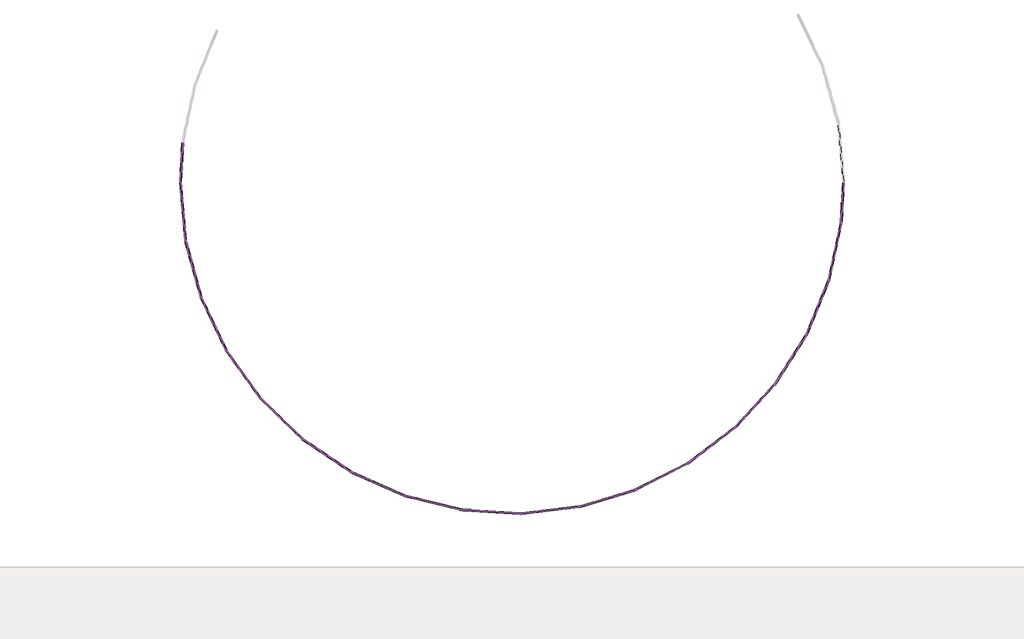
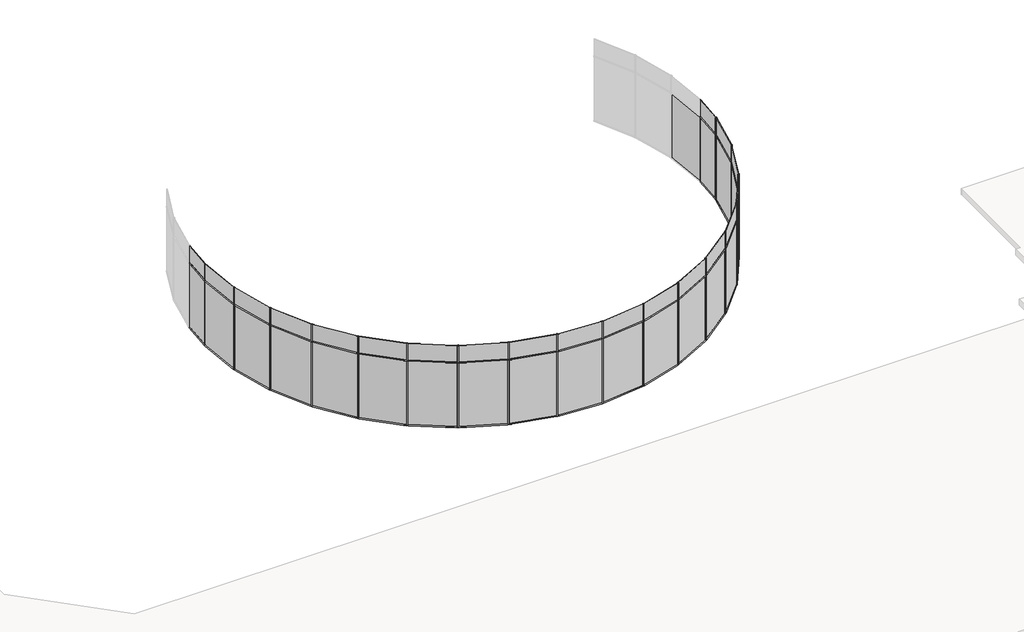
# One storey, part 1 of 2: 72 members, 39 plates.
"""IFC4 building model written with IfcOpenShell, lengths in millimetres."""

from ifc_helpers import new_model, si_unit, origin, place, context, project, spatial, transform, mapped, element, save
from components import member_37831322, member_0f460398, member_8bce7277, member_e3690c8c, member_018dfd5b, plate_ebbde56a, plate_f02ba564, plate_a57f398c, plate_84913797, plate_79c12487, plate_6c13b2b5

model = new_model("IFC4")

# Units and contexts
model_context = context("Model", 3, world=origin())
ifc_project = project(units=[si_unit("LENGTHUNIT", "METRE", prefix="MILLI")], contexts=[model_context])

# Site, building, storey
site = spatial("IfcSite", under=ifc_project)
building = spatial("IfcBuilding", under=site)
storey = spatial("IfcBuildingStorey", under=building, Name="樓層 2", Elevation=4500.0)

# Members
placement = place(None, origin())
member_shape = member_37831322(model_context)
element("IfcMember", 1, ObjectType="圓形豎框 : 25mm 半徑", at=placement, inside=storey, context=model_context, shape_type="MappedRepresentation", body=[
    mapped(member_shape, transform((-21690.7402424, -18858.604828, 5600.0), x_axis=(0.17664179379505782, -0.9842752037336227, 0.0), y_axis=(-0.9842752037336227, -0.17664179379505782, 0.0), z_axis=(0.0, 0.0, -1.0))),
])
element("IfcMember", 2, ObjectType="圓形豎框 : 25mm 半徑", at=placement, inside=storey, context=model_context, shape_type="MappedRepresentation", body=[
    mapped(member_shape, transform((-21216.9409052, -20595.1284207, 5600.0), x_axis=(0.3477282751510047, -0.9375953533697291, 0.0), y_axis=(-0.9375953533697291, -0.3477282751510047, 0.0), z_axis=(0.0, 0.0, -1.0))),
])
element("IfcMember", 3, ObjectType="圓形豎框 : 25mm 半徑", at=placement, inside=storey, context=model_context, shape_type="MappedRepresentation", body=[
    mapped(member_shape, transform((-20443.8493238, -22220.6527689, 5600.0), x_axis=(0.5078788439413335, -0.8614285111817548, 0.0), y_axis=(-0.8614285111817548, -0.5078788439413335, 0.0), z_axis=(0.0, 0.0, -1.0))),
])
element("IfcMember", 4, ObjectType="圓形豎框 : 25mm 半徑", at=placement, inside=storey, context=model_context, shape_type="MappedRepresentation", body=[
    mapped(member_shape, transform((-19395.7789131, -23684.0557942, 5600.0), x_axis=(0.6520568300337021, -0.7581700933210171, 0.0), y_axis=(-0.7581700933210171, -0.6520568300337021, 0.0), z_axis=(0.0, 0.0, -1.0))),
])
element("IfcMember", 5, ObjectType="圓形豎框 : 25mm 半徑", at=placement, inside=storey, context=model_context, shape_type="MappedRepresentation", body=[
    mapped(member_shape, transform((-18105.6910608, -24939.3140677, 5600.0), x_axis=(0.7757278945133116, -0.6310675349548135, 0.0), y_axis=(-0.6310675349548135, -0.7757278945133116, 0.0), z_axis=(0.0, 0.0, -1.0))),
])
element("IfcMember", 6, ObjectType="圓形豎框 : 25mm 半徑", at=placement, inside=storey, context=model_context, shape_type="MappedRepresentation", body=[
    mapped(member_shape, transform((-16614.158504, -25946.9502282, 5600.0), x_axis=(0.8750026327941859, -0.48411815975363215, 0.0), y_axis=(-0.48411815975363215, -0.8750026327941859, 0.0), z_axis=(0.0, 0.0, -1.0))),
])
element("IfcMember", 7, ObjectType="圓形豎框 : 25mm 半徑", at=placement, inside=storey, context=model_context, shape_type="MappedRepresentation", body=[
    mapped(member_shape, transform((-14968.0893339, -26675.2745291, 5600.0), x_axis=(0.9467588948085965, -0.32194346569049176, 0.0), y_axis=(-0.32194346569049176, -0.9467588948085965, 0.0), z_axis=(0.0, 0.0, -1.0))),
])
element("IfcMember", 8, ObjectType="圓形豎框 : 25mm 半徑", at=placement, inside=storey, context=model_context, shape_type="MappedRepresentation", body=[
    mapped(member_shape, transform((-13219.2517551, -27101.3814677, 5600.0), x_axis=(0.9887399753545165, -0.14964378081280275, 0.0), y_axis=(-0.14964378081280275, -0.9887399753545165, 0.0), z_axis=(0.0, 0.0, -1.0))),
])
element("IfcMember", 9, ObjectType="圓形豎框 : 25mm 半徑", at=placement, inside=storey, context=model_context, shape_type="MappedRepresentation", body=[
    mapped(member_shape, transform((-11422.645997, -27211.8701546, 5600.0), x_axis=(0.9996255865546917, 0.027362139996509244, 0.0), y_axis=(0.027362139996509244, -0.9996255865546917, 0.0), z_axis=(0.0, 0.0, -1.0))),
])
element("IfcMember", 10, ObjectType="圓形豎框 : 25mm 半徑", at=placement, inside=storey, context=model_context, shape_type="MappedRepresentation", body=[
    mapped(member_shape, transform((-9634.7745786, -27003.2657656, 5600.0), x_axis=(0.9790733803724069, 0.2035075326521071, 0.0), y_axis=(0.2035075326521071, -0.9790733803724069, 0.0), z_axis=(0.0, 0.0, -1.0))),
])
element("IfcMember", 11, ObjectType="圓形豎框 : 25mm 半徑", at=placement, inside=storey, context=model_context, shape_type="MappedRepresentation", body=[
    mapped(member_shape, transform((-7911.8653274, -26482.1288236, 5600.0), x_axis=(0.9277297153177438, 0.37325269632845, 0.0), y_axis=(0.37325269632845, -0.9277297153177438, 0.0), z_axis=(0.0, 0.0, -1.0))),
])
element("IfcMember", 12, ObjectType="圓形豎框 : 25mm 半徑", at=placement, inside=storey, context=model_context, shape_type="MappedRepresentation", body=[
    mapped(member_shape, transform((-6308.1030374, -25664.8488732, 5600.0), x_axis=(0.8472093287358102, 0.5312592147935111, 0.0), y_axis=(0.5312592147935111, -0.8472093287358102, 0.0), z_axis=(0.0, 0.0, -1.0))),
])
element("IfcMember", 13, ObjectType="圓形豎框 : 25mm 半徑", at=placement, inside=storey, context=model_context, shape_type="MappedRepresentation", body=[
    mapped(member_shape, transform((-4873.9253792, -24577.1290358, 5600.0), x_axis=(0.7400445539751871, 0.672557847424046, 0.0), y_axis=(0.672557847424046, -0.7400445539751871, 0.0), z_axis=(0.0, 0.0, -1.0))),
])
element("IfcMember", 14, ObjectType="圓形豎框 : 25mm 半徑", at=placement, inside=storey, context=model_context, shape_type="MappedRepresentation", body=[
    mapped(member_shape, transform((-3654.4366557, -23253.1776571, 5600.0), x_axis=(0.6096056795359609, 0.7927048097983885, 0.0), y_axis=(0.7927048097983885, -0.6096056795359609, 0.0), z_axis=(0.0, 0.0, -1.0))),
])
element("IfcMember", 15, ObjectType="圓形豎框 : 25mm 半徑", at=placement, inside=storey, context=model_context, shape_type="MappedRepresentation", body=[
    mapped(member_shape, transform((-2687.9892904, -21734.6324684, 5600.0), x_axis=(0.4599949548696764, 0.8879215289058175, 0.0), y_axis=(0.8879215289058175, -0.4599949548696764, 0.0), z_axis=(0.0, 0.0, -1.0))),
])
element("IfcMember", 16, ObjectType="圓形豎框 : 25mm 半徑", at=placement, inside=storey, context=model_context, shape_type="MappedRepresentation", body=[
    mapped(member_shape, transform((-2004.977659, -20069.2510972, 5600.0), x_axis=(0.2959175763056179, 0.9552134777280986, 0.0), y_axis=(0.9552134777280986, -0.2959175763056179, 0.0), z_axis=(0.0, 0.0, -1.0))),
])
element("IfcMember", 17, ObjectType="圓形豎框 : 25mm 半徑", at=placement, inside=storey, context=model_context, shape_type="MappedRepresentation", body=[
    mapped(member_shape, transform((-1626.8821992, -18309.4091091, 5600.0), x_axis=(0.12253371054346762, 0.9924643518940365, 0.0), y_axis=(0.9924643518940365, -0.12253371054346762, 0.0), z_axis=(0.0, 0.0, -1.0))),
])
member_2_shape = member_0f460398(model_context)
element("IfcMember", 18, ObjectType="圓形豎框 : 25mm 半徑", at=placement, inside=storey, context=model_context, shape_type="MappedRepresentation", body=[
    mapped(member_2_shape, transform((-21223.5214516, -20571.0100375, 5600.0), x_axis=(0.0, 0.0, 1.0), y_axis=(-0.9647353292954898, -0.2632218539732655, 0.0), z_axis=(0.2632218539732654, -0.9647353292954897, 0.0))),
])
element("IfcMember", 19, ObjectType="圓形豎框 : 25mm 半徑", at=placement, inside=storey, context=model_context, shape_type="MappedRepresentation", body=[
    mapped(member_2_shape, transform((-20454.5867068, -22198.0760419, 5600.0), x_axis=(0.0, 0.0, 1.0), y_axis=(-0.9030690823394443, -0.4294953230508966, 0.0), z_axis=(0.4294953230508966, -0.9030690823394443, 0.0))),
])
element("IfcMember", 20, ObjectType="圓形豎框 : 25mm 半徑", at=placement, inside=storey, context=model_context, shape_type="MappedRepresentation", body=[
    mapped(member_2_shape, transform((-19410.3354466, -23663.7307522, 5600.0), x_axis=(0.0, 0.0, 1.0), y_axis=(-0.8130016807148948, -0.5822613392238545, 0.0), z_axis=(0.5822613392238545, -0.8130016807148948, 0.0))),
])
element("IfcMember", 21, ObjectType="圓形豎框 : 25mm 半徑", at=placement, inside=storey, context=model_context, shape_type="MappedRepresentation", body=[
    mapped(member_2_shape, transform((-18123.6089476, -24921.8799251, 5600.0), x_axis=(0.0, 0.0, 1.0), y_axis=(-0.6973657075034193, -0.7167154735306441, 0.0), z_axis=(0.716715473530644, -0.6973657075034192, 0.0))),
])
element("IfcMember", 22, ObjectType="圓形豎框 : 25mm 半徑", at=placement, inside=storey, context=model_context, shape_type="MappedRepresentation", body=[
    mapped(member_2_shape, transform((-16634.8742339, -25932.9552816, 5600.0), x_axis=(0.0, 0.0, 1.0), y_axis=(-0.559797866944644, -0.8286291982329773, 0.0), z_axis=(0.8286291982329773, -0.559797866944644, 0.0))),
])
element("IfcMember", 23, ObjectType="圓形豎框 : 25mm 半徑", at=placement, inside=storey, context=model_context, shape_type="MappedRepresentation", body=[
    mapped(member_2_shape, transform((-14990.9514057, -26665.1589138, 5600.0), x_axis=(0.0, 0.0, 1.0), y_axis=(-0.4046246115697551, -0.9144828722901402, 0.0), z_axis=(0.9144828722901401, -0.40462461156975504, 0.0))),
])
element("IfcMember", 24, ObjectType="圓形豎框 : 25mm 半徑", at=placement, inside=storey, context=model_context, shape_type="MappedRepresentation", body=[
    mapped(member_2_shape, transform((-13243.5411659, -27095.4633158, 5600.0), x_axis=(0.0, 0.0, 1.0), y_axis=(-0.23672607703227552, -0.9715764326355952, 0.0), z_axis=(0.9715764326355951, -0.2367260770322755, 0.0))),
])
element("IfcMember", 25, ObjectType="圓形豎框 : 25mm 半徑", at=placement, inside=storey, context=model_context, shape_type="MappedRepresentation", body=[
    mapped(member_2_shape, transform((-11447.5988548, -27210.3355895, 5600.0), x_axis=(0.0, 0.0, 1.0), y_axis=(-0.06138260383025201, -0.9981143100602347, 0.0), z_axis=(0.9981143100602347, -0.06138260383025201, 0.0))),
])
element("IfcMember", 26, ObjectType="圓形豎框 : 25mm 半徑", at=placement, inside=storey, context=model_context, shape_type="MappedRepresentation", body=[
    mapped(member_2_shape, transform((-9659.606126, -27006.1630487, 5600.0), x_axis=(0.0, 0.0, 1.0), y_axis=(0.1158913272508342, -0.9932618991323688, 0.0), z_axis=(0.9932618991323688, 0.1158913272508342, 0.0))),
])
element("IfcMember", 27, ObjectType="圓形豎框 : 25mm 半徑", at=placement, inside=storey, context=model_context, shape_type="MappedRepresentation", body=[
    mapped(member_2_shape, transform((-7935.7946226, -26489.3668367, 5600.0), x_axis=(0.0, 0.0, 1.0), y_axis=(0.2895205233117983, -0.9571718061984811, 0.0), z_axis=(0.9571718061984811, 0.2895205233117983, 0.0))),
])
element("IfcMember", 28, ObjectType="圓形豎框 : 25mm 半徑", at=placement, inside=storey, context=model_context, shape_type="MappedRepresentation", body=[
    mapped(member_2_shape, transform((-6330.3775137, -25676.1999836, 5600.0), x_axis=(0.0, 0.0, 1.0), y_axis=(0.45404441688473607, -0.8909790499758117, 0.0), z_axis=(0.8909790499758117, 0.45404441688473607, 0.0))),
])
element("IfcMember", 29, ObjectType="圓形豎框 : 25mm 半徑", at=placement, inside=storey, context=model_context, shape_type="MappedRepresentation", body=[
    mapped(member_2_shape, transform((-4893.8445134, -24592.2362558, 5600.0), x_axis=(0.0, 0.0, 1.0), y_axis=(0.6042887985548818, -0.7967653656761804, 0.0), z_axis=(0.7967653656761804, 0.6042887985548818, 0.0))),
])
element("IfcMember", 30, ObjectType="圓形豎框 : 25mm 半徑", at=placement, inside=storey, context=model_context, shape_type="MappedRepresentation", body=[
    mapped(member_2_shape, transform((-3671.3739991, -23271.5658707, 5600.0), x_axis=(0.0, 0.0, 1.0), y_axis=(0.7355285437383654, -0.677493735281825, 0.0), z_axis=(0.677493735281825, 0.7355285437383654, 0.0))),
])
element("IfcMember", 31, ObjectType="圓形豎框 : 25mm 半徑", at=placement, inside=storey, context=model_context, shape_type="MappedRepresentation", body=[
    mapped(member_2_shape, transform((-2701.4121705, -21755.7233738, 5600.0), x_axis=(0.0, 0.0, 1.0), y_axis=(0.8436362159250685, -0.5369152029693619, 0.0), z_axis=(0.5369152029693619, 0.8436362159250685, 0.0))),
])
element("IfcMember", 32, ObjectType="圓形豎框 : 25mm 半徑", at=placement, inside=storey, context=model_context, shape_type="MappedRepresentation", body=[
    mapped(member_2_shape, transform((-2014.4639317, -20092.3813941, 5600.0), x_axis=(0.0, 0.0, 1.0), y_axis=(0.9252118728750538, -0.379450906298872, 0.0), z_axis=(0.37945090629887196, 0.9252118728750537, 0.0))),
])
element("IfcMember", 33, ObjectType="圓形豎框 : 25mm 半徑", at=placement, inside=storey, context=model_context, shape_type="MappedRepresentation", body=[
    mapped(member_2_shape, transform((-1632.133525, -18333.8513589, 5600.0), x_axis=(0.0, 0.0, 1.0), y_axis=(0.9776899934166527, -0.2100530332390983, 0.0), z_axis=(0.2100530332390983, 0.9776899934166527, 0.0))),
])
element("IfcMember", 34, ObjectType="圓形豎框 : 25mm 半徑", at=placement, inside=storey, context=model_context, shape_type="MappedRepresentation", body=[
    mapped(member_2_shape, transform((-21223.5214516, -20571.0100375, 8400.0), x_axis=(0.0, 0.0, 1.0), y_axis=(-0.9647353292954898, -0.2632218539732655, 0.0), z_axis=(0.2632218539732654, -0.9647353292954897, 0.0))),
])
element("IfcMember", 35, ObjectType="圓形豎框 : 25mm 半徑", at=placement, inside=storey, context=model_context, shape_type="MappedRepresentation", body=[
    mapped(member_2_shape, transform((-20454.5867068, -22198.0760419, 8400.0), x_axis=(0.0, 0.0, 1.0), y_axis=(-0.9030690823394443, -0.4294953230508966, 0.0), z_axis=(0.4294953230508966, -0.9030690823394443, 0.0))),
])
element("IfcMember", 36, ObjectType="圓形豎框 : 25mm 半徑", at=placement, inside=storey, context=model_context, shape_type="MappedRepresentation", body=[
    mapped(member_2_shape, transform((-19410.3354466, -23663.7307522, 8400.0), x_axis=(0.0, 0.0, 1.0), y_axis=(-0.8130016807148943, -0.5822613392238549, 0.0), z_axis=(0.5822613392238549, -0.8130016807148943, 0.0))),
])
element("IfcMember", 37, ObjectType="圓形豎框 : 25mm 半徑", at=placement, inside=storey, context=model_context, shape_type="MappedRepresentation", body=[
    mapped(member_2_shape, transform((-18123.6089476, -24921.8799251, 8400.0), x_axis=(0.0, 0.0, 1.0), y_axis=(-0.6973657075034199, -0.7167154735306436, 0.0), z_axis=(0.7167154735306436, -0.6973657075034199, 0.0))),
])
element("IfcMember", 38, ObjectType="圓形豎框 : 25mm 半徑", at=placement, inside=storey, context=model_context, shape_type="MappedRepresentation", body=[
    mapped(member_2_shape, transform((-16634.8742339, -25932.9552816, 8400.0), x_axis=(0.0, 0.0, 1.0), y_axis=(-0.559797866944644, -0.8286291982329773, 0.0), z_axis=(0.8286291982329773, -0.559797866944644, 0.0))),
])
element("IfcMember", 39, ObjectType="圓形豎框 : 25mm 半徑", at=placement, inside=storey, context=model_context, shape_type="MappedRepresentation", body=[
    mapped(member_2_shape, transform((-14990.9514057, -26665.1589138, 8400.0), x_axis=(0.0, 0.0, 1.0), y_axis=(-0.4046246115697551, -0.9144828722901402, 0.0), z_axis=(0.9144828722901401, -0.40462461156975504, 0.0))),
])
element("IfcMember", 40, ObjectType="圓形豎框 : 25mm 半徑", at=placement, inside=storey, context=model_context, shape_type="MappedRepresentation", body=[
    mapped(member_2_shape, transform((-13243.5411659, -27095.4633158, 8400.0), x_axis=(0.0, 0.0, 1.0), y_axis=(-0.23672607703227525, -0.9715764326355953, 0.0), z_axis=(0.9715764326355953, -0.23672607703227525, 0.0))),
])
element("IfcMember", 41, ObjectType="圓形豎框 : 25mm 半徑", at=placement, inside=storey, context=model_context, shape_type="MappedRepresentation", body=[
    mapped(member_2_shape, transform((-11447.5988548, -27210.3355895, 8400.0), x_axis=(0.0, 0.0, 1.0), y_axis=(-0.06138260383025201, -0.9981143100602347, 0.0), z_axis=(0.9981143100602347, -0.06138260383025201, 0.0))),
])
element("IfcMember", 42, ObjectType="圓形豎框 : 25mm 半徑", at=placement, inside=storey, context=model_context, shape_type="MappedRepresentation", body=[
    mapped(member_2_shape, transform((-9659.606126, -27006.1630487, 8400.0), x_axis=(0.0, 0.0, 1.0), y_axis=(0.11589132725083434, -0.9932618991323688, 0.0), z_axis=(0.9932618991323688, 0.11589132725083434, 0.0))),
])
element("IfcMember", 43, ObjectType="圓形豎框 : 25mm 半徑", at=placement, inside=storey, context=model_context, shape_type="MappedRepresentation", body=[
    mapped(member_2_shape, transform((-7935.7946226, -26489.3668367, 8400.0), x_axis=(0.0, 0.0, 1.0), y_axis=(0.2895205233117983, -0.9571718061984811, 0.0), z_axis=(0.9571718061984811, 0.2895205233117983, 0.0))),
])
element("IfcMember", 44, ObjectType="圓形豎框 : 25mm 半徑", at=placement, inside=storey, context=model_context, shape_type="MappedRepresentation", body=[
    mapped(member_2_shape, transform((-6330.3775137, -25676.1999836, 8400.0), x_axis=(0.0, 0.0, 1.0), y_axis=(0.45404441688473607, -0.8909790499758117, 0.0), z_axis=(0.8909790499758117, 0.45404441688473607, 0.0))),
])
element("IfcMember", 45, ObjectType="圓形豎框 : 25mm 半徑", at=placement, inside=storey, context=model_context, shape_type="MappedRepresentation", body=[
    mapped(member_2_shape, transform((-4893.8445134, -24592.2362558, 8400.0), x_axis=(0.0, 0.0, 1.0), y_axis=(0.6042887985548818, -0.7967653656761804, 0.0), z_axis=(0.7967653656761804, 0.6042887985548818, 0.0))),
])
element("IfcMember", 46, ObjectType="圓形豎框 : 25mm 半徑", at=placement, inside=storey, context=model_context, shape_type="MappedRepresentation", body=[
    mapped(member_2_shape, transform((-3671.3739991, -23271.5658707, 8400.0), x_axis=(0.0, 0.0, 1.0), y_axis=(0.7355285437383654, -0.677493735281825, 0.0), z_axis=(0.677493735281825, 0.7355285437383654, 0.0))),
])
element("IfcMember", 47, ObjectType="圓形豎框 : 25mm 半徑", at=placement, inside=storey, context=model_context, shape_type="MappedRepresentation", body=[
    mapped(member_2_shape, transform((-2701.4121705, -21755.7233738, 8400.0), x_axis=(0.0, 0.0, 1.0), y_axis=(0.8436362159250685, -0.5369152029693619, 0.0), z_axis=(0.5369152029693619, 0.8436362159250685, 0.0))),
])
element("IfcMember", 48, ObjectType="圓形豎框 : 25mm 半徑", at=placement, inside=storey, context=model_context, shape_type="MappedRepresentation", body=[
    mapped(member_2_shape, transform((-2014.4639317, -20092.3813941, 8400.0), x_axis=(0.0, 0.0, 1.0), y_axis=(0.9252118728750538, -0.379450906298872, 0.0), z_axis=(0.37945090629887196, 0.9252118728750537, 0.0))),
])
element("IfcMember", 49, ObjectType="圓形豎框 : 25mm 半徑", at=placement, inside=storey, context=model_context, shape_type="MappedRepresentation", body=[
    mapped(member_2_shape, transform((-1632.133525, -18333.8513589, 8400.0), x_axis=(0.0, 0.0, 1.0), y_axis=(0.9776899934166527, -0.21005303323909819, 0.0), z_axis=(0.21005303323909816, 0.9776899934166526, 0.0))),
])
member_3_shape = member_8bce7277(model_context)
element("IfcMember", 50, ObjectType="圓形豎框 : 25mm 半徑", at=placement, inside=storey, context=model_context, shape_type="MappedRepresentation", body=[
    mapped(member_3_shape, transform((-21690.7402424, -18858.604828, 8400.0), x_axis=(0.17664179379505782, -0.9842752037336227, 0.0), y_axis=(-0.9842752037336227, -0.17664179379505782, 0.0), z_axis=(0.0, 0.0, -1.0))),
])
element("IfcMember", 51, ObjectType="圓形豎框 : 25mm 半徑", at=placement, inside=storey, context=model_context, shape_type="MappedRepresentation", body=[
    mapped(member_3_shape, transform((-21216.9409052, -20595.1284207, 8400.0), x_axis=(0.3477282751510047, -0.9375953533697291, 0.0), y_axis=(-0.9375953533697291, -0.3477282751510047, 0.0), z_axis=(0.0, 0.0, -1.0))),
])
element("IfcMember", 52, ObjectType="圓形豎框 : 25mm 半徑", at=placement, inside=storey, context=model_context, shape_type="MappedRepresentation", body=[
    mapped(member_3_shape, transform((-20443.8493238, -22220.6527689, 8400.0), x_axis=(0.5078788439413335, -0.8614285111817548, 0.0), y_axis=(-0.8614285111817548, -0.5078788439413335, 0.0), z_axis=(0.0, 0.0, -1.0))),
])
element("IfcMember", 53, ObjectType="圓形豎框 : 25mm 半徑", at=placement, inside=storey, context=model_context, shape_type="MappedRepresentation", body=[
    mapped(member_3_shape, transform((-19395.7789131, -23684.0557942, 8400.0), x_axis=(0.6520568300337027, -0.7581700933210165, 0.0), y_axis=(-0.7581700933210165, -0.6520568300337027, 0.0), z_axis=(0.0, 0.0, -1.0))),
])
element("IfcMember", 54, ObjectType="圓形豎框 : 25mm 半徑", at=placement, inside=storey, context=model_context, shape_type="MappedRepresentation", body=[
    mapped(member_3_shape, transform((-18105.6910608, -24939.3140677, 8400.0), x_axis=(0.7757278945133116, -0.6310675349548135, 0.0), y_axis=(-0.6310675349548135, -0.7757278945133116, 0.0), z_axis=(0.0, 0.0, -1.0))),
])
element("IfcMember", 55, ObjectType="圓形豎框 : 25mm 半徑", at=placement, inside=storey, context=model_context, shape_type="MappedRepresentation", body=[
    mapped(member_3_shape, transform((-16614.158504, -25946.9502282, 8400.0), x_axis=(0.8750026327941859, -0.48411815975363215, 0.0), y_axis=(-0.48411815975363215, -0.8750026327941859, 0.0), z_axis=(0.0, 0.0, -1.0))),
])
element("IfcMember", 56, ObjectType="圓形豎框 : 25mm 半徑", at=placement, inside=storey, context=model_context, shape_type="MappedRepresentation", body=[
    mapped(member_3_shape, transform((-14968.0893339, -26675.2745291, 8400.0), x_axis=(0.9467588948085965, -0.32194346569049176, 0.0), y_axis=(-0.32194346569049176, -0.9467588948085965, 0.0), z_axis=(0.0, 0.0, -1.0))),
])
element("IfcMember", 57, ObjectType="圓形豎框 : 25mm 半徑", at=placement, inside=storey, context=model_context, shape_type="MappedRepresentation", body=[
    mapped(member_3_shape, transform((-13219.2517551, -27101.3814677, 8400.0), x_axis=(0.9887399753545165, -0.14964378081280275, 0.0), y_axis=(-0.14964378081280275, -0.9887399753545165, 0.0), z_axis=(0.0, 0.0, -1.0))),
])
element("IfcMember", 58, ObjectType="圓形豎框 : 25mm 半徑", at=placement, inside=storey, context=model_context, shape_type="MappedRepresentation", body=[
    mapped(member_3_shape, transform((-11422.645997, -27211.8701546, 8400.0), x_axis=(0.9996255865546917, 0.02736213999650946, 0.0), y_axis=(0.02736213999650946, -0.9996255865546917, 0.0), z_axis=(0.0, 0.0, -1.0))),
])
element("IfcMember", 59, ObjectType="圓形豎框 : 25mm 半徑", at=placement, inside=storey, context=model_context, shape_type="MappedRepresentation", body=[
    mapped(member_3_shape, transform((-9634.7745786, -27003.2657656, 8400.0), x_axis=(0.9790733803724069, 0.2035075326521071, 0.0), y_axis=(0.2035075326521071, -0.9790733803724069, 0.0), z_axis=(0.0, 0.0, -1.0))),
])
element("IfcMember", 60, ObjectType="圓形豎框 : 25mm 半徑", at=placement, inside=storey, context=model_context, shape_type="MappedRepresentation", body=[
    mapped(member_3_shape, transform((-7911.8653274, -26482.1288236, 8400.0), x_axis=(0.9277297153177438, 0.37325269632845, 0.0), y_axis=(0.37325269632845, -0.9277297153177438, 0.0), z_axis=(0.0, 0.0, -1.0))),
])
element("IfcMember", 61, ObjectType="圓形豎框 : 25mm 半徑", at=placement, inside=storey, context=model_context, shape_type="MappedRepresentation", body=[
    mapped(member_3_shape, transform((-6308.1030374, -25664.8488732, 8400.0), x_axis=(0.8472093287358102, 0.5312592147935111, 0.0), y_axis=(0.5312592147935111, -0.8472093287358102, 0.0), z_axis=(0.0, 0.0, -1.0))),
])
element("IfcMember", 62, ObjectType="圓形豎框 : 25mm 半徑", at=placement, inside=storey, context=model_context, shape_type="MappedRepresentation", body=[
    mapped(member_3_shape, transform((-4873.9253792, -24577.1290358, 8400.0), x_axis=(0.7400445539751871, 0.672557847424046, 0.0), y_axis=(0.672557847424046, -0.7400445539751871, 0.0), z_axis=(0.0, 0.0, -1.0))),
])
element("IfcMember", 63, ObjectType="圓形豎框 : 25mm 半徑", at=placement, inside=storey, context=model_context, shape_type="MappedRepresentation", body=[
    mapped(member_3_shape, transform((-3654.4366557, -23253.1776571, 8400.0), x_axis=(0.6096056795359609, 0.7927048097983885, 0.0), y_axis=(0.7927048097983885, -0.6096056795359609, 0.0), z_axis=(0.0, 0.0, -1.0))),
])
element("IfcMember", 64, ObjectType="圓形豎框 : 25mm 半徑", at=placement, inside=storey, context=model_context, shape_type="MappedRepresentation", body=[
    mapped(member_3_shape, transform((-2687.9892904, -21734.6324684, 8400.0), x_axis=(0.4599949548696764, 0.8879215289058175, 0.0), y_axis=(0.8879215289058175, -0.4599949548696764, 0.0), z_axis=(0.0, 0.0, -1.0))),
])
element("IfcMember", 65, ObjectType="圓形豎框 : 25mm 半徑", at=placement, inside=storey, context=model_context, shape_type="MappedRepresentation", body=[
    mapped(member_3_shape, transform((-2004.977659, -20069.2510972, 8400.0), x_axis=(0.2959175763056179, 0.9552134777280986, 0.0), y_axis=(0.9552134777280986, -0.2959175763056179, 0.0), z_axis=(0.0, 0.0, -1.0))),
])
element("IfcMember", 66, ObjectType="圓形豎框 : 25mm 半徑", at=placement, inside=storey, context=model_context, shape_type="MappedRepresentation", body=[
    mapped(member_3_shape, transform((-1626.8821992, -18309.4091091, 8400.0), x_axis=(0.12253371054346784, 0.9924643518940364, 0.0), y_axis=(0.9924643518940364, -0.12253371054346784, 0.0), z_axis=(0.0, 0.0, -1.0))),
])
member_4_shape = member_e3690c8c(model_context)
element("IfcMember", 67, ObjectType="圓形豎框 : 25mm 半徑", at=placement, inside=storey, context=model_context, shape_type="MappedRepresentation", body=[
    mapped(member_4_shape, transform((-21692.9569965, -18833.7033019, 5600.0), x_axis=(0.0, 0.0, 1.0), y_axis=(-0.9960610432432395, -0.08867016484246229, 0.0), z_axis=(0.08867016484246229, -0.9960610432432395, 0.0))),
])
element("IfcMember", 68, ObjectType="圓形豎框 : 25mm 半徑", at=placement, inside=storey, context=model_context, shape_type="MappedRepresentation", body=[
    mapped(member_4_shape, transform((-21692.9569965, -18833.7033019, 8400.0), x_axis=(0.0, 0.0, 1.0), y_axis=(-0.9960610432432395, -0.08867016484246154, 0.0), z_axis=(0.08867016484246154, -0.9960610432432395, 0.0))),
])
member_5_shape = member_018dfd5b(model_context)
element("IfcMember", 69, ObjectType="圓形豎框 : 25mm 半徑", at=placement, inside=storey, context=model_context, shape_type="MappedRepresentation", body=[
    mapped(member_5_shape, transform((-21850.3465391, -17065.6949502, 5600.0), x_axis=(0.0, 0.0, 1.0), y_axis=(-0.9981143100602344, 0.06138260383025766, 0.0), z_axis=(-0.06138260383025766, -0.9981143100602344, 0.0))),
])
element("IfcMember", 70, ObjectType="圓形豎框 : 25mm 半徑", at=placement, inside=storey, context=model_context, shape_type="MappedRepresentation", body=[
    mapped(member_5_shape, transform((-21850.3465391, -17065.6949502, 8400.0), x_axis=(0.0, 0.0, 1.0), y_axis=(-0.9981143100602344, 0.06138260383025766, 0.0), z_axis=(-0.06138260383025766, -0.9981143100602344, 0.0))),
])
element("IfcMember", 71, ObjectType="圓形豎框 : 25mm 半徑", at=placement, inside=storey, context=model_context, shape_type="MappedRepresentation", body=[
    mapped(member_5_shape, transform((-1550.3955556, -17065.6949502, 5600.0), x_axis=(0.0, 0.0, 1.0), y_axis=(0.9981143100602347, -0.06138260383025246, 0.0), z_axis=(0.06138260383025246, 0.9981143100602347, 0.0))),
])
element("IfcMember", 72, ObjectType="圓形豎框 : 25mm 半徑", at=placement, inside=storey, context=model_context, shape_type="MappedRepresentation", body=[
    mapped(member_5_shape, transform((-1550.3955556, -17065.6949502, 8400.0), x_axis=(0.0, 0.0, 1.0), y_axis=(0.9981143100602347, -0.06138260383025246, 0.0), z_axis=(0.06138260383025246, 0.9981143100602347, 0.0))),
])

# Plates
plate_shape = plate_ebbde56a(model_context)
element("IfcPlate", 73, ObjectType="系統嵌板 : 玻璃 1.0cm", at=placement, inside=storey, context=model_context, shape_type="MappedRepresentation", body=[
    mapped(plate_shape, transform((-21771.6517678, -17949.699126, 5625.0), x_axis=(0.08867016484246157, -0.9960610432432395, 0.0), y_axis=(0.9960610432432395, 0.08867016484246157, 0.0), z_axis=(0.0, 0.0, 1.0))),
])
element("IfcPlate", 74, ObjectType="系統嵌板 : 玻璃 1.0cm", at=placement, inside=storey, context=model_context, shape_type="MappedRepresentation", body=[
    mapped(plate_shape, transform((-1629.0903269, -16181.6907743, 5625.0), x_axis=(-0.08867016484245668, 0.99606104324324, 0.0), y_axis=(-0.99606104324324, -0.08867016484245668, 0.0), z_axis=(0.0, 0.0, 1.0))),
])
plate_2_shape = plate_f02ba564(model_context)
element("IfcPlate", 75, ObjectType="系統嵌板 : 玻璃 1.0cm", at=placement, inside=storey, context=model_context, shape_type="MappedRepresentation", body=[
    mapped(plate_2_shape, transform((-21453.8405738, -19726.8666244, 5625.0), x_axis=(0.2632218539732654, -0.9647353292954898, 0.0), y_axis=(0.9647353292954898, 0.2632218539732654, 0.0), z_axis=(0.0, 0.0, 1.0))),
])
element("IfcPlate", 76, ObjectType="系統嵌板 : 玻璃 1.0cm", at=placement, inside=storey, context=model_context, shape_type="MappedRepresentation", body=[
    mapped(plate_2_shape, transform((-20830.3951145, -21407.8905948, 5625.0), x_axis=(0.42949532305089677, -0.9030690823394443, 0.0), y_axis=(0.9030690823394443, 0.42949532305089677, 0.0), z_axis=(0.0, 0.0, 1.0))),
])
element("IfcPlate", 77, ObjectType="系統嵌板 : 玻璃 1.0cm", at=placement, inside=storey, context=model_context, shape_type="MappedRepresentation", body=[
    mapped(plate_2_shape, transform((-19919.8141184, -22952.3542816, 5625.0), x_axis=(0.5822613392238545, -0.8130016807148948, 0.0), y_axis=(0.8130016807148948, 0.5822613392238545, 0.0), z_axis=(0.0, 0.0, 1.0))),
])
element("IfcPlate", 78, ObjectType="系統嵌板 : 玻璃 1.0cm", at=placement, inside=storey, context=model_context, shape_type="MappedRepresentation", body=[
    mapped(plate_2_shape, transform((-18750.734987, -24311.684931, 5625.0), x_axis=(0.7167154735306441, -0.6973657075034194, 0.0), y_axis=(0.6973657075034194, 0.7167154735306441, 0.0), z_axis=(0.0, 0.0, 1.0))),
])
element("IfcPlate", 79, ObjectType="系統嵌板 : 玻璃 1.0cm", at=placement, inside=storey, context=model_context, shape_type="MappedRepresentation", body=[
    mapped(plate_2_shape, transform((-17359.9247824, -25443.132148, 5625.0), x_axis=(0.8286291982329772, -0.5597978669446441, 0.0), y_axis=(0.5597978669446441, 0.8286291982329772, 0.0), z_axis=(0.0, 0.0, 1.0))),
])
element("IfcPlate", 80, ObjectType="系統嵌板 : 玻璃 1.0cm", at=placement, inside=storey, context=model_context, shape_type="MappedRepresentation", body=[
    mapped(plate_2_shape, transform((-15791.1239189, -26311.1123787, 5625.0), x_axis=(0.9144828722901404, -0.4046246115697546, 0.0), y_axis=(0.4046246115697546, 0.9144828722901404, 0.0), z_axis=(0.0, 0.0, 1.0))),
])
element("IfcPlate", 81, ObjectType="系統嵌板 : 玻璃 1.0cm", at=placement, inside=storey, context=model_context, shape_type="MappedRepresentation", body=[
    mapped(plate_2_shape, transform((-14093.6705445, -26888.3279984, 5625.0), x_axis=(0.9715764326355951, -0.2367260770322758, 0.0), y_axis=(0.2367260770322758, 0.9715764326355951, 0.0), z_axis=(0.0, 0.0, 1.0))),
])
element("IfcPlate", 82, ObjectType="系統嵌板 : 玻璃 1.0cm", at=placement, inside=storey, context=model_context, shape_type="MappedRepresentation", body=[
    mapped(plate_2_shape, transform((-12320.9488761, -27156.6258112, 5625.0), x_axis=(0.9981143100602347, -0.061382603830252, 0.0), y_axis=(0.061382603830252, 0.9981143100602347, 0.0), z_axis=(0.0, 0.0, 1.0))),
])
element("IfcPlate", 83, ObjectType="系統嵌板 : 玻璃 1.0cm", at=placement, inside=storey, context=model_context, shape_type="MappedRepresentation", body=[
    mapped(plate_2_shape, transform((-10528.7102878, -27107.5679601, 5625.0), x_axis=(0.9932618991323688, 0.11589132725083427, 0.0), y_axis=(-0.11589132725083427, 0.9932618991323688, 0.0), z_axis=(0.0, 0.0, 1.0))),
])
element("IfcPlate", 84, ObjectType="系統嵌板 : 玻璃 1.0cm", at=placement, inside=storey, context=model_context, shape_type="MappedRepresentation", body=[
    mapped(plate_2_shape, transform((-8773.319953, -26742.6972946, 5625.0), x_axis=(0.9571718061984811, 0.28952052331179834, 0.0), y_axis=(-0.28952052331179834, 0.9571718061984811, 0.0), z_axis=(0.0, 0.0, 1.0))),
])
element("IfcPlate", 85, ObjectType="系統嵌板 : 玻璃 1.0cm", at=placement, inside=storey, context=model_context, shape_type="MappedRepresentation", body=[
    mapped(plate_2_shape, transform((-7109.9841824, -26073.4888484, 5625.0), x_axis=(0.8909790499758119, 0.45404441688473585, 0.0), y_axis=(-0.45404441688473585, 0.8909790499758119, 0.0), z_axis=(0.0, 0.0, 1.0))),
])
element("IfcPlate", 86, ObjectType="系統嵌板 : 玻璃 1.0cm", at=placement, inside=storey, context=model_context, shape_type="MappedRepresentation", body=[
    mapped(plate_2_shape, transform((-5591.0142083, -25120.9889545, 5625.0), x_axis=(0.7967653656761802, 0.6042887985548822, 0.0), y_axis=(-0.6042887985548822, 0.7967653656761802, 0.0), z_axis=(0.0, 0.0, 1.0))),
])
element("IfcPlate", 87, ObjectType="系統嵌板 : 玻璃 1.0cm", at=placement, inside=storey, context=model_context, shape_type="MappedRepresentation", body=[
    mapped(plate_2_shape, transform((-4264.1810175, -23915.1533465, 5625.0), x_axis=(0.677493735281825, 0.7355285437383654, 0.0), y_axis=(-0.7355285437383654, 0.677493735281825, 0.0), z_axis=(0.0, 0.0, 1.0))),
])
element("IfcPlate", 88, ObjectType="系統嵌板 : 玻璃 1.0cm", at=placement, inside=storey, context=model_context, shape_type="MappedRepresentation", body=[
    mapped(plate_2_shape, transform((-3171.212973, -22493.9050628, 5625.0), x_axis=(0.5369152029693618, 0.8436362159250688, 0.0), y_axis=(-0.8436362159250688, 0.5369152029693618, 0.0), z_axis=(0.0, 0.0, 1.0))),
])
element("IfcPlate", 89, ObjectType="系統嵌板 : 玻璃 1.0cm", at=placement, inside=storey, context=model_context, shape_type="MappedRepresentation", body=[
    mapped(plate_2_shape, transform((-2346.4834747, -20901.9417828, 5625.0), x_axis=(0.379450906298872, 0.9252118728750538, 0.0), y_axis=(-0.9252118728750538, 0.379450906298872, 0.0), z_axis=(0.0, 0.0, 1.0))),
])
element("IfcPlate", 90, ObjectType="系統嵌板 : 玻璃 1.0cm", at=placement, inside=storey, context=model_context, shape_type="MappedRepresentation", body=[
    mapped(plate_2_shape, transform((-1815.9299291, -19189.3301032, 5625.0), x_axis=(0.2100530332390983, 0.9776899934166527, 0.0), y_axis=(-0.9776899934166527, 0.2100530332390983, 0.0), z_axis=(0.0, 0.0, 1.0))),
])
plate_3_shape = plate_a57f398c(model_context)
element("IfcPlate", 91, ObjectType="系統嵌板 : 玻璃 1.0cm", at=placement, inside=storey, context=model_context, shape_type="MappedRepresentation", body=[
    mapped(plate_3_shape, transform((-1587.8715949, -17675.0756008, 5625.0), x_axis=(0.061382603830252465, 0.9981143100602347, 0.0), y_axis=(-0.9981143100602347, 0.061382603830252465, 0.0), z_axis=(0.0, 0.0, 1.0))),
])
element("IfcPlate", 92, ObjectType="系統嵌板 : 玻璃 1.0cm", at=placement, inside=storey, context=model_context, shape_type="MappedRepresentation", body=[
    mapped(plate_3_shape, transform((-21812.8704999, -16456.3142996, 5625.0), x_axis=(-0.061382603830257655, -0.9981143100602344, 0.0), y_axis=(0.9981143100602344, -0.061382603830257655, 0.0), z_axis=(0.0, 0.0, 1.0))),
])
plate_4_shape = plate_84913797(model_context)
element("IfcPlate", 93, ObjectType="系統嵌板 : 玻璃 1.0cm", at=placement, inside=storey, context=model_context, shape_type="MappedRepresentation", body=[
    mapped(plate_4_shape, transform((-21771.6517678, -17949.699126, 8425.0), x_axis=(0.08867016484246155, -0.9960610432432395, 0.0), y_axis=(0.9960610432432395, 0.08867016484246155, 0.0), z_axis=(0.0, 0.0, 1.0))),
])
plate_5_shape = plate_79c12487(model_context)
element("IfcPlate", 94, ObjectType="系統嵌板 : 玻璃 1.0cm", at=placement, inside=storey, context=model_context, shape_type="MappedRepresentation", body=[
    mapped(plate_5_shape, transform((-21453.8405738, -19726.8666244, 8425.0), x_axis=(0.2632218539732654, -0.9647353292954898, 0.0), y_axis=(0.9647353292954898, 0.2632218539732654, 0.0), z_axis=(0.0, 0.0, 1.0))),
])
element("IfcPlate", 95, ObjectType="系統嵌板 : 玻璃 1.0cm", at=placement, inside=storey, context=model_context, shape_type="MappedRepresentation", body=[
    mapped(plate_5_shape, transform((-20830.3951145, -21407.8905948, 8425.0), x_axis=(0.42949532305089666, -0.9030690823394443, 0.0), y_axis=(0.9030690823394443, 0.42949532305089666, 0.0), z_axis=(0.0, 0.0, 1.0))),
])
element("IfcPlate", 96, ObjectType="系統嵌板 : 玻璃 1.0cm", at=placement, inside=storey, context=model_context, shape_type="MappedRepresentation", body=[
    mapped(plate_5_shape, transform((-19919.8141184, -22952.3542816, 8425.0), x_axis=(0.5822613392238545, -0.8130016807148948, 0.0), y_axis=(0.8130016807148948, 0.5822613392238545, 0.0), z_axis=(0.0, 0.0, 1.0))),
])
element("IfcPlate", 97, ObjectType="系統嵌板 : 玻璃 1.0cm", at=placement, inside=storey, context=model_context, shape_type="MappedRepresentation", body=[
    mapped(plate_5_shape, transform((-18750.734987, -24311.684931, 8425.0), x_axis=(0.7167154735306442, -0.6973657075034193, 0.0), y_axis=(0.6973657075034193, 0.7167154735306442, 0.0), z_axis=(0.0, 0.0, 1.0))),
])
element("IfcPlate", 98, ObjectType="系統嵌板 : 玻璃 1.0cm", at=placement, inside=storey, context=model_context, shape_type="MappedRepresentation", body=[
    mapped(plate_5_shape, transform((-17359.9247824, -25443.132148, 8425.0), x_axis=(0.8286291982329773, -0.559797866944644, 0.0), y_axis=(0.559797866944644, 0.8286291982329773, 0.0), z_axis=(0.0, 0.0, 1.0))),
])
element("IfcPlate", 99, ObjectType="系統嵌板 : 玻璃 1.0cm", at=placement, inside=storey, context=model_context, shape_type="MappedRepresentation", body=[
    mapped(plate_5_shape, transform((-15791.1239189, -26311.1123787, 8425.0), x_axis=(0.9144828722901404, -0.4046246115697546, 0.0), y_axis=(0.4046246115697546, 0.9144828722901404, 0.0), z_axis=(0.0, 0.0, 1.0))),
])
element("IfcPlate", 100, ObjectType="系統嵌板 : 玻璃 1.0cm", at=placement, inside=storey, context=model_context, shape_type="MappedRepresentation", body=[
    mapped(plate_5_shape, transform((-14093.6705445, -26888.3279984, 8425.0), x_axis=(0.9715764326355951, -0.2367260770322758, 0.0), y_axis=(0.2367260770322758, 0.9715764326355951, 0.0), z_axis=(0.0, 0.0, 1.0))),
])
element("IfcPlate", 101, ObjectType="系統嵌板 : 玻璃 1.0cm", at=placement, inside=storey, context=model_context, shape_type="MappedRepresentation", body=[
    mapped(plate_5_shape, transform((-12320.9488761, -27156.6258112, 8425.0), x_axis=(0.9981143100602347, -0.06138260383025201, 0.0), y_axis=(0.06138260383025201, 0.9981143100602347, 0.0), z_axis=(0.0, 0.0, 1.0))),
])
element("IfcPlate", 102, ObjectType="系統嵌板 : 玻璃 1.0cm", at=placement, inside=storey, context=model_context, shape_type="MappedRepresentation", body=[
    mapped(plate_5_shape, transform((-10528.7102878, -27107.5679601, 8425.0), x_axis=(0.9932618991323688, 0.11589132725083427, 0.0), y_axis=(-0.11589132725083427, 0.9932618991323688, 0.0), z_axis=(0.0, 0.0, 1.0))),
])
element("IfcPlate", 103, ObjectType="系統嵌板 : 玻璃 1.0cm", at=placement, inside=storey, context=model_context, shape_type="MappedRepresentation", body=[
    mapped(plate_5_shape, transform((-8773.319953, -26742.6972946, 8425.0), x_axis=(0.9571718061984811, 0.2895205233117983, 0.0), y_axis=(-0.2895205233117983, 0.9571718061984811, 0.0), z_axis=(0.0, 0.0, 1.0))),
])
element("IfcPlate", 104, ObjectType="系統嵌板 : 玻璃 1.0cm", at=placement, inside=storey, context=model_context, shape_type="MappedRepresentation", body=[
    mapped(plate_5_shape, transform((-7109.9841824, -26073.4888484, 8425.0), x_axis=(0.8909790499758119, 0.45404441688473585, 0.0), y_axis=(-0.45404441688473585, 0.8909790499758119, 0.0), z_axis=(0.0, 0.0, 1.0))),
])
element("IfcPlate", 105, ObjectType="系統嵌板 : 玻璃 1.0cm", at=placement, inside=storey, context=model_context, shape_type="MappedRepresentation", body=[
    mapped(plate_5_shape, transform((-5591.0142083, -25120.9889545, 8425.0), x_axis=(0.7967653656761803, 0.604288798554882, 0.0), y_axis=(-0.604288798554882, 0.7967653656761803, 0.0), z_axis=(0.0, 0.0, 1.0))),
])
element("IfcPlate", 106, ObjectType="系統嵌板 : 玻璃 1.0cm", at=placement, inside=storey, context=model_context, shape_type="MappedRepresentation", body=[
    mapped(plate_5_shape, transform((-4264.1810175, -23915.1533465, 8425.0), x_axis=(0.677493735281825, 0.7355285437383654, 0.0), y_axis=(-0.7355285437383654, 0.677493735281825, 0.0), z_axis=(0.0, 0.0, 1.0))),
])
element("IfcPlate", 107, ObjectType="系統嵌板 : 玻璃 1.0cm", at=placement, inside=storey, context=model_context, shape_type="MappedRepresentation", body=[
    mapped(plate_5_shape, transform((-3171.212973, -22493.9050628, 8425.0), x_axis=(0.5369152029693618, 0.8436362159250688, 0.0), y_axis=(-0.8436362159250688, 0.5369152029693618, 0.0), z_axis=(0.0, 0.0, 1.0))),
])
element("IfcPlate", 108, ObjectType="系統嵌板 : 玻璃 1.0cm", at=placement, inside=storey, context=model_context, shape_type="MappedRepresentation", body=[
    mapped(plate_5_shape, transform((-2346.4834747, -20901.9417828, 8425.0), x_axis=(0.37945090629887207, 0.9252118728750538, 0.0), y_axis=(-0.9252118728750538, 0.37945090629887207, 0.0), z_axis=(0.0, 0.0, 1.0))),
])
element("IfcPlate", 109, ObjectType="系統嵌板 : 玻璃 1.0cm", at=placement, inside=storey, context=model_context, shape_type="MappedRepresentation", body=[
    mapped(plate_5_shape, transform((-1815.9299291, -19189.3301032, 8425.0), x_axis=(0.21005303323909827, 0.9776899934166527, 0.0), y_axis=(-0.9776899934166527, 0.21005303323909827, 0.0), z_axis=(0.0, 0.0, 1.0))),
])
plate_6_shape = plate_6c13b2b5(model_context)
element("IfcPlate", 110, ObjectType="系統嵌板 : 玻璃 1.0cm", at=placement, inside=storey, context=model_context, shape_type="MappedRepresentation", body=[
    mapped(plate_6_shape, transform((-1587.8715949, -17675.0756008, 8425.0), x_axis=(0.06138260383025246, 0.9981143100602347, 0.0), y_axis=(-0.9981143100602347, 0.06138260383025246, 0.0), z_axis=(0.0, 0.0, 1.0))),
])
element("IfcPlate", 111, ObjectType="系統嵌板 : 玻璃 1.0cm", at=placement, inside=storey, context=model_context, shape_type="MappedRepresentation", body=[
    mapped(plate_6_shape, transform((-21812.8704999, -16456.3142996, 8425.0), x_axis=(-0.06138260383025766, -0.9981143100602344, 0.0), y_axis=(0.9981143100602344, -0.06138260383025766, 0.0), z_axis=(0.0, 0.0, 1.0))),
])

save(model, "model.ifc")
